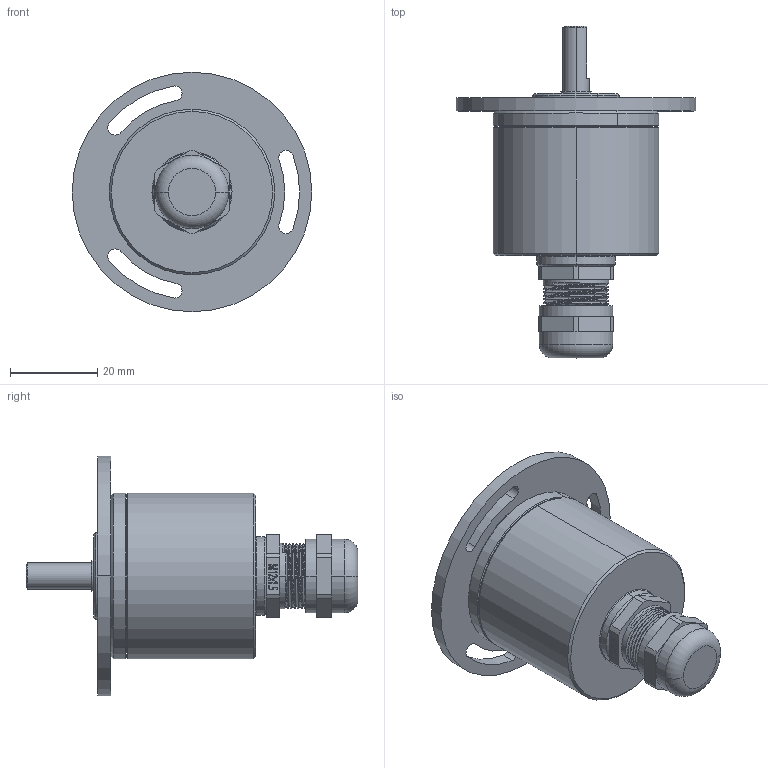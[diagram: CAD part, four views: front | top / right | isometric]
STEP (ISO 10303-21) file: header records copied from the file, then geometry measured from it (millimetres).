
FILE_DESCRIPTION (( 'STEP AP214' ), '1' );
FILE_NAME ('单圈绝对值编码器-38CH（简化模型）.STEP', '2023-05-02T14:25:02', ( '' ), ( '' ), 'SwSTEP 2.0', 'SolidWorks 2016', '' );
FILE_SCHEMA (( 'AUTOMOTIVE_DESIGN' ));
Length unit declared in the file: millimetre
Products named in the file (1): 单圈绝对值编码器-38CH（简化模型）
Bounding box: 55 x 76.2 x 55 mm (x, y, z)
Volume: 49315.2 mm3; surface area: 12140.6 mm2
Topology: 1 solids, 1 shells, 300 faces, 866 edges, 570 vertices
Faces by surface type: plane 157, cylinder 70, bspline 50, cone 21, torus 2
Entity records: 17668 total; most frequent: CARTESIAN_POINT 9213, ORIENTED_EDGE 1732, DIRECTION 1344, EDGE_CURVE 866, VERTEX_POINT 570, LINE 462, VECTOR 462, AXIS2_PLACEMENT_3D 441
